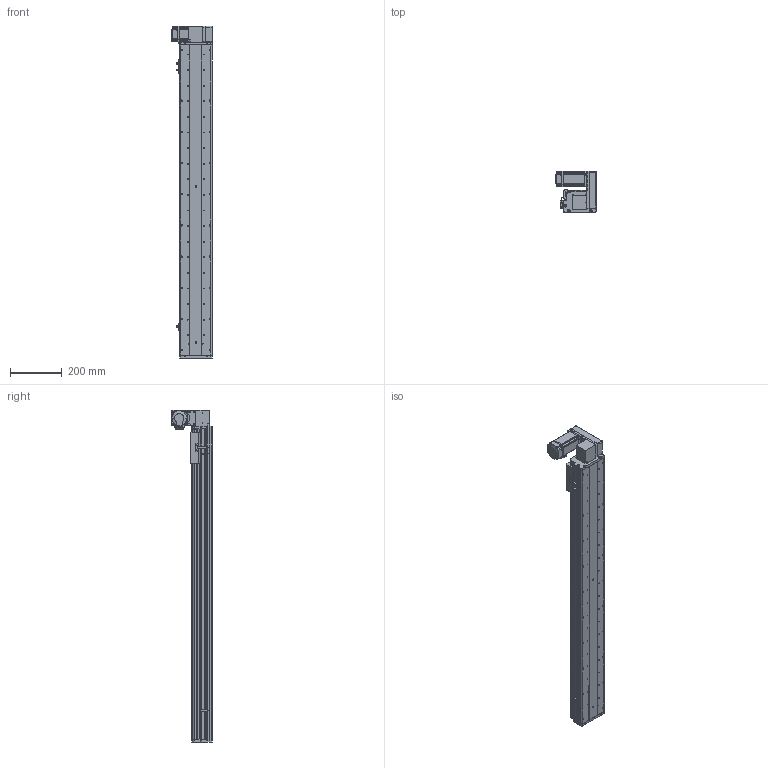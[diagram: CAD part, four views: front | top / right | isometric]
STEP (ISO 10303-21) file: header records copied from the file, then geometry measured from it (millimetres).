
FILE_DESCRIPTION (( 'STEP AP214' ), '1' );
FILE_NAME ('KSD125B-S1000-MLU-CM.STEP', '2017-10-21T03:28:48', ( '微软用户' ), ( '微软中国' ), 'SwSTEP 2.0', 'SolidWorks 2014', '' );
FILE_SCHEMA (( 'AUTOMOTIVE_DESIGN' ));
Length unit declared in the file: millimetre
Products named in the file (17): 125模组同步带-尾端板1; KSD125模组同步带-滑动座1; KSD125B-S1000-MLU-CM; 悵誘欶奻狟殏; 100宽马达安装板连板上下折丝杆同步带; HTPA30S3M150_A_H6_a佪裝蚚; HTPA30S3M150_A_H6_a萇儂蚚; 100宽马达安装板同步带左; KSD125模组1000行程同步带-防尘盖; 125模组1000行程同步带-底板; MHMD042G1CA_2_03; KSD125模组同步带-防撞垫2; 覜茼え68遵圉猾敕; U倰嫖萇假蚾璃; U倰嫖萇EEㄜSX672; KSD125模组同步带-防撞垫1; 前端板-125宽模组同步带
Assembly tree (20 placements, depth 2):
  KSD125B-S1000-MLU-CM
    KSD125模组同步带-滑动座1
    125模组同步带-尾端板1
    前端板-125宽模组同步带
    KSD125模组同步带-防撞垫1
    U倰嫖萇EEㄜSX672  x3
    U倰嫖萇假蚾璃  x3
    覜茼え68遵圉猾敕
    KSD125模组同步带-防撞垫2
    MHMD042G1CA_2_03
    125模组1000行程同步带-底板
    KSD125模组1000行程同步带-防尘盖
    100宽马达安装板同步带左
    HTPA30S3M150_A_H6_a萇儂蚚
    HTPA30S3M150_A_H6_a佪裝蚚
    100宽马达安装板连板上下折丝杆同步带
    悵誘欶奻狟殏
Bounding box: 155 x 157.5 x 1277 mm (x, y, z)
Volume: 3926381.1 mm3; surface area: 1320130.5 mm2
Topology: 19 solids, 22 shells, 2311 faces, 6697 edges, 4426 vertices
Faces by surface type: cylinder 1456, plane 728, cone 105, bspline 22
Entity records: 82343 total; most frequent: CARTESIAN_POINT 16239, DIRECTION 12798, ORIENTED_EDGE 11914, EDGE_CURVE 6035, AXIS2_PLACEMENT_3D 4953, VERTEX_POINT 4018, LINE 2892, VECTOR 2892
